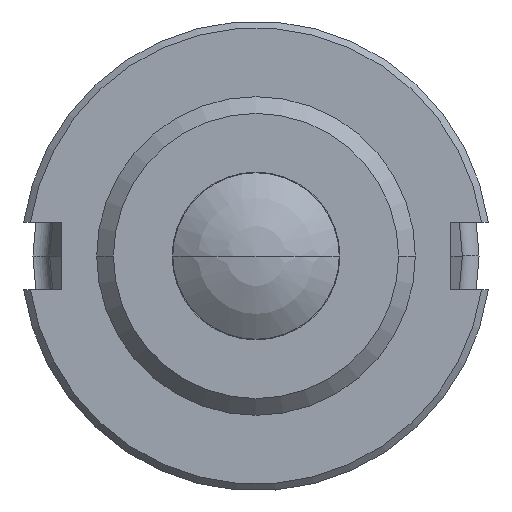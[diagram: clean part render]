
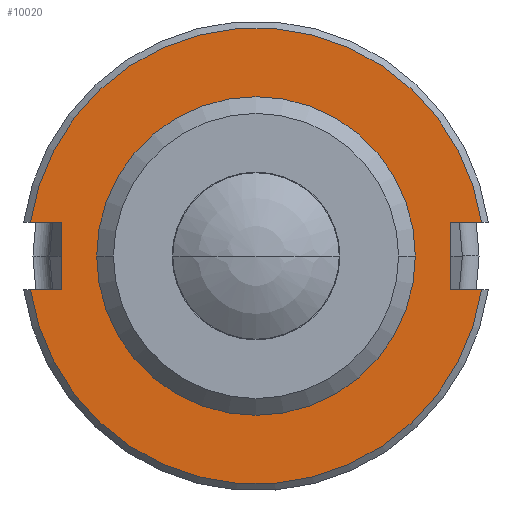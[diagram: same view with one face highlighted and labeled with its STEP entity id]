
A CAD part, left-side view. The second image highlights one B-rep face of the part: STEP entity #10020.
In plain terms, the highlighted planar face has unit normal (-1, 0, 0).
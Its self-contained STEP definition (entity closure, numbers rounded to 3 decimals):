
#3723=DIRECTION('',(0.,-1.,0.));
#3724=VECTOR('',#3723,0.926);
#3725=CARTESIAN_POINT('',(-9.,-5.8,1.));
#3726=LINE('',#3725,#3724);
#3727=DIRECTION('',(0.,0.,1.));
#3728=VECTOR('',#3727,2.);
#3729=CARTESIAN_POINT('',(-9.,-5.8,-1.));
#3730=LINE('',#3729,#3728);
#3731=DIRECTION('',(0.,1.,0.));
#3732=VECTOR('',#3731,0.926);
#3733=CARTESIAN_POINT('',(-9.,-6.726,
-1.));
#3734=LINE('',#3733,#3732);
#3735=DIRECTION('',(0.,1.,0.));
#3736=VECTOR('',#3735,0.926);
#3737=CARTESIAN_POINT('',(-9.,5.8,-1.));
#3738=LINE('',#3737,#3736);
#3739=DIRECTION('',(0.,0.,-1.));
#3740=VECTOR('',#3739,2.);
#3741=CARTESIAN_POINT('',(-9.,5.8,1.));
#3742=LINE('',#3741,#3740);
#3743=DIRECTION('',(0.,-1.,0.));
#3744=VECTOR('',#3743,0.926);
#3745=CARTESIAN_POINT('',(-9.,6.726,
1.));
#3746=LINE('',#3745,#3744);
#3747=CARTESIAN_POINT('',(-9.,0.,0.));
#3748=DIRECTION('',(1.,0.,0.));
#3749=DIRECTION('',(0.,1.,0.));
#3750=AXIS2_PLACEMENT_3D('',#3747,#3748,#3749);
#3756=CARTESIAN_POINT('',(-9.,0.,0.));
#3757=DIRECTION('',(1.,0.,0.));
#3758=DIRECTION('',(0.,-1.,0.));
#3759=AXIS2_PLACEMENT_3D('',#3756,#3757,#3758);
#3820=CARTESIAN_POINT('',(-9.,0.,0.));
#3821=DIRECTION('',(-1.,0.,0.));
#3822=DIRECTION('',(0.,-0.989,0.147));
#3823=AXIS2_PLACEMENT_3D('',#3820,#3821,#3822);
#3830=CARTESIAN_POINT('',(-9.,6.726,
1.));
#3854=CARTESIAN_POINT('',(-9.,6.726,
-1.));
#3866=CARTESIAN_POINT('',(-9.,0.,0.));
#3867=DIRECTION('',(-1.,0.,0.));
#3868=DIRECTION('',(0.,0.989,-0.147));
#3869=AXIS2_PLACEMENT_3D('',#3866,#3867,#3868);
#3876=CARTESIAN_POINT('',(-9.,-6.726,
-1.));
#3900=CARTESIAN_POINT('',(-9.,-6.726,
1.));
#4819=CARTESIAN_POINT('',(-9.,-5.8,-1.));
#4820=CARTESIAN_POINT('',(-9.,-5.8,1.));
#4821=VERTEX_POINT('',#4819);
#4822=VERTEX_POINT('',#4820);
#4823=CARTESIAN_POINT('',(-9.,5.8,1.));
#4824=CARTESIAN_POINT('',(-9.,5.8,-1.));
#4825=VERTEX_POINT('',#4823);
#4826=VERTEX_POINT('',#4824);
#4831=CARTESIAN_POINT('',(-9.,4.75,0.));
#4832=CARTESIAN_POINT('',(-9.,-4.75,0.));
#4833=VERTEX_POINT('',#4831);
#4834=VERTEX_POINT('',#4832);
#4839=VERTEX_POINT('',#3830);
#4842=VERTEX_POINT('',#3900);
#4843=VERTEX_POINT('',#3876);
#4846=VERTEX_POINT('',#3854);
#9991=CARTESIAN_POINT('',(-9.,0.,0.));
#9992=DIRECTION('',(-1.,0.,0.));
#9993=DIRECTION('',(0.,0.,1.));
#9994=AXIS2_PLACEMENT_3D('',#9991,#9992,#9993);
#9995=PLANE('',#9994);
#9997=ORIENTED_EDGE('',*,*,#9996,.F.);
#9999=ORIENTED_EDGE('',*,*,#9998,.F.);
#10001=ORIENTED_EDGE('',*,*,#10000,.F.);
#10003=ORIENTED_EDGE('',*,*,#10002,.F.);
#10005=ORIENTED_EDGE('',*,*,#10004,.F.);
#10007=ORIENTED_EDGE('',*,*,#10006,.F.);
#10009=ORIENTED_EDGE('',*,*,#10008,.F.);
#10011=ORIENTED_EDGE('',*,*,#10010,.F.);
#10012=EDGE_LOOP('',(#9997,#9999,#10001,#10003,#10005,#10007,#10009,#10011));
#10013=FACE_OUTER_BOUND('',#10012,.F.);
#10015=ORIENTED_EDGE('',*,*,#10014,.F.);
#10017=ORIENTED_EDGE('',*,*,#10016,.F.);
#10018=EDGE_LOOP('',(#10015,#10017));
#10019=FACE_BOUND('',#10018,.F.);
#10020=ADVANCED_FACE('',(#10013,#10019),#9995,.T.);
#3751=CIRCLE('',#3750,4.75);
#3760=CIRCLE('',#3759,4.75);
#3824=CIRCLE('',#3823,6.8);
#3870=CIRCLE('',#3869,6.8);
#9996=EDGE_CURVE('',#4842,#4839,#3824,.T.);
#9998=EDGE_CURVE('',#4822,#4842,#3726,.T.);
#10000=EDGE_CURVE('',#4821,#4822,#3730,.T.);
#10002=EDGE_CURVE('',#4843,#4821,#3734,.T.);
#10004=EDGE_CURVE('',#4846,#4843,#3870,.T.);
#10006=EDGE_CURVE('',#4826,#4846,#3738,.T.);
#10008=EDGE_CURVE('',#4825,#4826,#3742,.T.);
#10010=EDGE_CURVE('',#4839,#4825,#3746,.T.);
#10014=EDGE_CURVE('',#4833,#4834,#3751,.T.);
#10016=EDGE_CURVE('',#4834,#4833,#3760,.T.);
